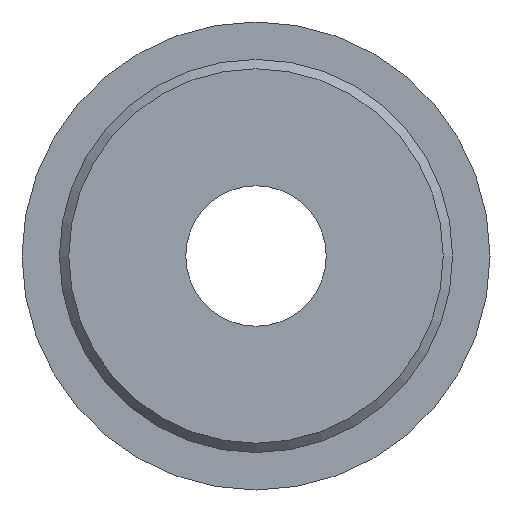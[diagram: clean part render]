
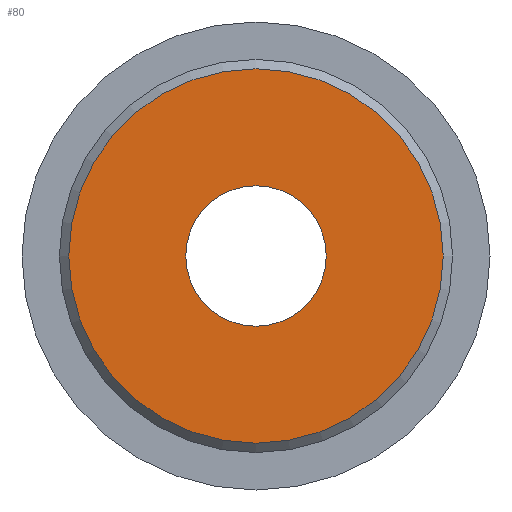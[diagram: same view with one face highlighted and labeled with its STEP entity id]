
A CAD part, front view. The second image highlights one B-rep face of the part: STEP entity #80.
In plain terms, the highlighted planar face has unit normal (0, -1, 0).
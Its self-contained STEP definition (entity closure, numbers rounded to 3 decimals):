
#80 = ADVANCED_FACE( '', ( #102, #103 ), #104, .T. );
#102 = FACE_OUTER_BOUND( '', #135, .T. );
#103 = FACE_BOUND( '', #136, .T. );
#104 = PLANE( '', #137 );
#135 = EDGE_LOOP( '', ( #178 ) );
#136 = EDGE_LOOP( '', ( #179 ) );
#137 = AXIS2_PLACEMENT_3D( '', #180, #181, #182 );
#178 = ORIENTED_EDGE( '', *, *, #214, .T. );
#179 = ORIENTED_EDGE( '', *, *, #213, .F. );
#180 = CARTESIAN_POINT( '', ( 3., 0., 0. ) );
#181 = DIRECTION( '', ( 0., -1., 0. ) );
#182 = DIRECTION( '', ( 0., 0., -1. ) );
#213 = EDGE_CURVE( '', #229, #229, #230, .T. );
#214 = EDGE_CURVE( '', #231, #231, #232, .T. );
#229 = VERTEX_POINT( '', #251 );
#230 = CIRCLE( '', #252, 3. );
#231 = VERTEX_POINT( '', #253 );
#232 = CIRCLE( '', #254, 8. );
#251 = CARTESIAN_POINT( '', ( 0., 0., -3. ) );
#252 = AXIS2_PLACEMENT_3D( '', #278, #279, #280 );
#253 = CARTESIAN_POINT( '', ( 0., 0., -8. ) );
#254 = AXIS2_PLACEMENT_3D( '', #281, #282, #283 );
#278 = CARTESIAN_POINT( '', ( 0., 0., 0. ) );
#279 = DIRECTION( '', ( 0., -1., 0. ) );
#280 = DIRECTION( '', ( 0., 0., -1. ) );
#281 = CARTESIAN_POINT( '', ( 0., 0., 0. ) );
#282 = DIRECTION( '', ( 0., -1., 0. ) );
#283 = DIRECTION( '', ( 0., 0., -1. ) );
